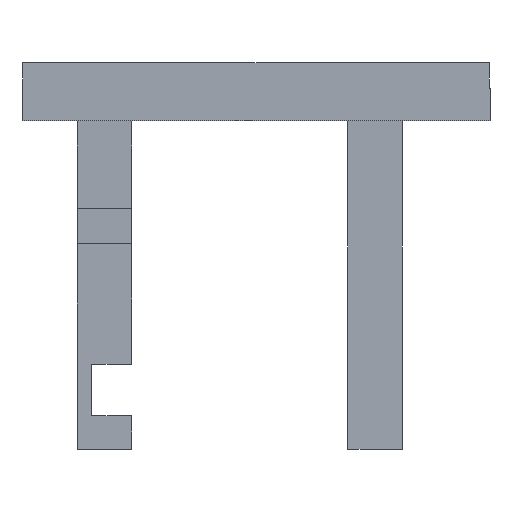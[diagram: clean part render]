
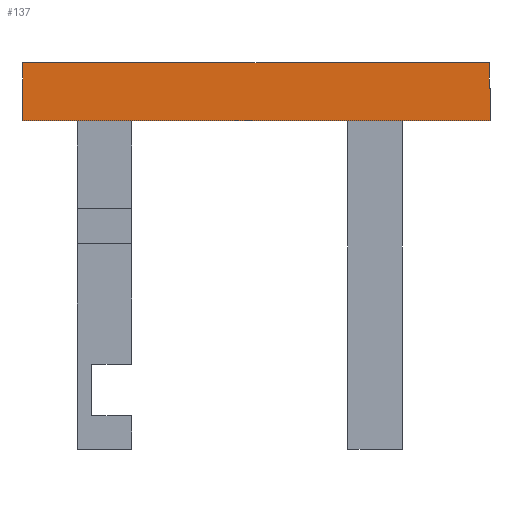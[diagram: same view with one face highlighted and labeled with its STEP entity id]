
A CAD part, front view. The second image highlights one B-rep face of the part: STEP entity #137.
In plain terms, the highlighted planar face has unit normal (0, -1, 0).
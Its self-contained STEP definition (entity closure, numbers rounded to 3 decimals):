
#21 = EDGE_CURVE('',#22,#24,#26,.T.);
#22 = VERTEX_POINT('',#23);
#23 = CARTESIAN_POINT('',(-42.1,-99.,138.6));
#24 = VERTEX_POINT('',#25);
#25 = CARTESIAN_POINT('',(-42.1,-99.,141.));
#26 = SURFACE_CURVE('',#27,(#31,#43),.PCURVE_S1.);
#27 = LINE('',#28,#29);
#28 = CARTESIAN_POINT('',(-42.1,-99.,138.6));
#29 = VECTOR('',#30,1.);
#30 = DIRECTION('',(0.,0.,1.));
#31 = PCURVE('',#32,#37);
#32 = PLANE('',#33);
#33 = AXIS2_PLACEMENT_3D('',#34,#35,#36);
#34 = CARTESIAN_POINT('',(-42.1,-99.,138.6));
#35 = DIRECTION('',(1.,0.,0.));
#36 = DIRECTION('',(0.,0.,1.));
#37 = DEFINITIONAL_REPRESENTATION('',(#38),#42);
#38 = LINE('',#39,#40);
#39 = CARTESIAN_POINT('',(0.,0.));
#40 = VECTOR('',#41,1.);
#41 = DIRECTION('',(1.,0.));
#42 = ( GEOMETRIC_REPRESENTATION_CONTEXT(2) 
PARAMETRIC_REPRESENTATION_CONTEXT() REPRESENTATION_CONTEXT('2D SPACE',''
  ) );
#43 = PCURVE('',#44,#49);
#44 = PLANE('',#45);
#45 = AXIS2_PLACEMENT_3D('',#46,#47,#48);
#46 = CARTESIAN_POINT('',(-24.8,-99.,140.748));
#47 = DIRECTION('',(-0.,-1.,-0.));
#48 = DIRECTION('',(0.,0.,-1.));
#49 = DEFINITIONAL_REPRESENTATION('',(#50),#54);
#50 = LINE('',#51,#52);
#51 = CARTESIAN_POINT('',(2.148,-17.3));
#52 = VECTOR('',#53,1.);
#53 = DIRECTION('',(-1.,0.));
#54 = ( GEOMETRIC_REPRESENTATION_CONTEXT(2) 
PARAMETRIC_REPRESENTATION_CONTEXT() REPRESENTATION_CONTEXT('2D SPACE',''
  ) );
#72 = PLANE('',#73);
#73 = AXIS2_PLACEMENT_3D('',#74,#75,#76);
#74 = CARTESIAN_POINT('',(-24.962,-87.404,138.6));
#75 = DIRECTION('',(-0.,-0.,-1.));
#76 = DIRECTION('',(-1.,0.,0.));
#126 = PLANE('',#127);
#127 = AXIS2_PLACEMENT_3D('',#128,#129,#130);
#128 = CARTESIAN_POINT('',(-42.1,-99.,141.));
#129 = DIRECTION('',(0.,0.,1.));
#130 = DIRECTION('',(1.,0.,0.));
#137 = ADVANCED_FACE('',(#138),#44,.T.);
#138 = FACE_BOUND('',#139,.T.);
#139 = EDGE_LOOP('',(#140,#170,#193,#221,#249,#277,#298,#299));
#140 = ORIENTED_EDGE('',*,*,#141,.T.);
#141 = EDGE_CURVE('',#142,#144,#146,.T.);
#142 = VERTEX_POINT('',#143);
#143 = CARTESIAN_POINT('',(-7.5,-99.,138.6));
#144 = VERTEX_POINT('',#145);
#145 = CARTESIAN_POINT('',(-7.5,-99.,141.));
#146 = SURFACE_CURVE('',#147,(#151,#158),.PCURVE_S1.);
#147 = LINE('',#148,#149);
#148 = CARTESIAN_POINT('',(-7.5,-99.,138.6));
#149 = VECTOR('',#150,1.);
#150 = DIRECTION('',(0.,0.,1.));
#151 = PCURVE('',#44,#152);
#152 = DEFINITIONAL_REPRESENTATION('',(#153),#157);
#153 = LINE('',#154,#155);
#154 = CARTESIAN_POINT('',(2.148,17.3));
#155 = VECTOR('',#156,1.);
#156 = DIRECTION('',(-1.,0.));
#157 = ( GEOMETRIC_REPRESENTATION_CONTEXT(2) 
PARAMETRIC_REPRESENTATION_CONTEXT() REPRESENTATION_CONTEXT('2D SPACE',''
  ) );
#158 = PCURVE('',#159,#164);
#159 = PLANE('',#160);
#160 = AXIS2_PLACEMENT_3D('',#161,#162,#163);
#161 = CARTESIAN_POINT('',(-7.5,-99.,138.6));
#162 = DIRECTION('',(1.,0.,0.));
#163 = DIRECTION('',(0.,0.,1.));
#164 = DEFINITIONAL_REPRESENTATION('',(#165),#169);
#165 = LINE('',#166,#167);
#166 = CARTESIAN_POINT('',(0.,0.));
#167 = VECTOR('',#168,1.);
#168 = DIRECTION('',(1.,0.));
#169 = ( GEOMETRIC_REPRESENTATION_CONTEXT(2) 
PARAMETRIC_REPRESENTATION_CONTEXT() REPRESENTATION_CONTEXT('2D SPACE',''
  ) );
#170 = ORIENTED_EDGE('',*,*,#171,.F.);
#171 = EDGE_CURVE('',#172,#144,#174,.T.);
#172 = VERTEX_POINT('',#173);
#173 = CARTESIAN_POINT('',(-7.55,-99.,141.));
#174 = SURFACE_CURVE('',#175,(#179,#186),.PCURVE_S1.);
#175 = LINE('',#176,#177);
#176 = CARTESIAN_POINT('',(-42.1,-99.,141.));
#177 = VECTOR('',#178,1.);
#178 = DIRECTION('',(1.,0.,0.));
#179 = PCURVE('',#44,#180);
#180 = DEFINITIONAL_REPRESENTATION('',(#181),#185);
#181 = LINE('',#182,#183);
#182 = CARTESIAN_POINT('',(-0.252,-17.3));
#183 = VECTOR('',#184,1.);
#184 = DIRECTION('',(0.,1.));
#185 = ( GEOMETRIC_REPRESENTATION_CONTEXT(2) 
PARAMETRIC_REPRESENTATION_CONTEXT() REPRESENTATION_CONTEXT('2D SPACE',''
  ) );
#186 = PCURVE('',#126,#187);
#187 = DEFINITIONAL_REPRESENTATION('',(#188),#192);
#188 = LINE('',#189,#190);
#189 = CARTESIAN_POINT('',(0.,0.));
#190 = VECTOR('',#191,1.);
#191 = DIRECTION('',(1.,0.));
#192 = ( GEOMETRIC_REPRESENTATION_CONTEXT(2) 
PARAMETRIC_REPRESENTATION_CONTEXT() REPRESENTATION_CONTEXT('2D SPACE',''
  ) );
#193 = ORIENTED_EDGE('',*,*,#194,.T.);
#194 = EDGE_CURVE('',#172,#195,#197,.T.);
#195 = VERTEX_POINT('',#196);
#196 = CARTESIAN_POINT('',(-7.55,-99.,142.9));
#197 = SURFACE_CURVE('',#198,(#202,#209),.PCURVE_S1.);
#198 = LINE('',#199,#200);
#199 = CARTESIAN_POINT('',(-7.55,-99.,140.8));
#200 = VECTOR('',#201,1.);
#201 = DIRECTION('',(0.,0.,1.));
#202 = PCURVE('',#44,#203);
#203 = DEFINITIONAL_REPRESENTATION('',(#204),#208);
#204 = LINE('',#205,#206);
#205 = CARTESIAN_POINT('',(-0.052,17.25));
#206 = VECTOR('',#207,1.);
#207 = DIRECTION('',(-1.,0.));
#208 = ( GEOMETRIC_REPRESENTATION_CONTEXT(2) 
PARAMETRIC_REPRESENTATION_CONTEXT() REPRESENTATION_CONTEXT('2D SPACE',''
  ) );
#209 = PCURVE('',#210,#215);
#210 = PLANE('',#211);
#211 = AXIS2_PLACEMENT_3D('',#212,#213,#214);
#212 = CARTESIAN_POINT('',(-7.55,-99.,140.8));
#213 = DIRECTION('',(1.,0.,0.));
#214 = DIRECTION('',(0.,0.,1.));
#215 = DEFINITIONAL_REPRESENTATION('',(#216),#220);
#216 = LINE('',#217,#218);
#217 = CARTESIAN_POINT('',(0.,0.));
#218 = VECTOR('',#219,1.);
#219 = DIRECTION('',(1.,0.));
#220 = ( GEOMETRIC_REPRESENTATION_CONTEXT(2) 
PARAMETRIC_REPRESENTATION_CONTEXT() REPRESENTATION_CONTEXT('2D SPACE',''
  ) );
#221 = ORIENTED_EDGE('',*,*,#222,.F.);
#222 = EDGE_CURVE('',#223,#195,#225,.T.);
#223 = VERTEX_POINT('',#224);
#224 = CARTESIAN_POINT('',(-42.05,-99.,142.9));
#225 = SURFACE_CURVE('',#226,(#230,#237),.PCURVE_S1.);
#226 = LINE('',#227,#228);
#227 = CARTESIAN_POINT('',(-42.05,-99.,142.9));
#228 = VECTOR('',#229,1.);
#229 = DIRECTION('',(1.,0.,0.));
#230 = PCURVE('',#44,#231);
#231 = DEFINITIONAL_REPRESENTATION('',(#232),#236);
#232 = LINE('',#233,#234);
#233 = CARTESIAN_POINT('',(-2.152,-17.25));
#234 = VECTOR('',#235,1.);
#235 = DIRECTION('',(0.,1.));
#236 = ( GEOMETRIC_REPRESENTATION_CONTEXT(2) 
PARAMETRIC_REPRESENTATION_CONTEXT() REPRESENTATION_CONTEXT('2D SPACE',''
  ) );
#237 = PCURVE('',#238,#243);
#238 = PLANE('',#239);
#239 = AXIS2_PLACEMENT_3D('',#240,#241,#242);
#240 = CARTESIAN_POINT('',(-42.05,-99.,142.9));
#241 = DIRECTION('',(0.,0.,1.));
#242 = DIRECTION('',(1.,0.,0.));
#243 = DEFINITIONAL_REPRESENTATION('',(#244),#248);
#244 = LINE('',#245,#246);
#245 = CARTESIAN_POINT('',(0.,0.));
#246 = VECTOR('',#247,1.);
#247 = DIRECTION('',(1.,0.));
#248 = ( GEOMETRIC_REPRESENTATION_CONTEXT(2) 
PARAMETRIC_REPRESENTATION_CONTEXT() REPRESENTATION_CONTEXT('2D SPACE',''
  ) );
#249 = ORIENTED_EDGE('',*,*,#250,.F.);
#250 = EDGE_CURVE('',#251,#223,#253,.T.);
#251 = VERTEX_POINT('',#252);
#252 = CARTESIAN_POINT('',(-42.05,-99.,141.));
#253 = SURFACE_CURVE('',#254,(#258,#265),.PCURVE_S1.);
#254 = LINE('',#255,#256);
#255 = CARTESIAN_POINT('',(-42.05,-99.,140.8));
#256 = VECTOR('',#257,1.);
#257 = DIRECTION('',(0.,0.,1.));
#258 = PCURVE('',#44,#259);
#259 = DEFINITIONAL_REPRESENTATION('',(#260),#264);
#260 = LINE('',#261,#262);
#261 = CARTESIAN_POINT('',(-0.052,-17.25));
#262 = VECTOR('',#263,1.);
#263 = DIRECTION('',(-1.,0.));
#264 = ( GEOMETRIC_REPRESENTATION_CONTEXT(2) 
PARAMETRIC_REPRESENTATION_CONTEXT() REPRESENTATION_CONTEXT('2D SPACE',''
  ) );
#265 = PCURVE('',#266,#271);
#266 = PLANE('',#267);
#267 = AXIS2_PLACEMENT_3D('',#268,#269,#270);
#268 = CARTESIAN_POINT('',(-42.05,-99.,140.8));
#269 = DIRECTION('',(1.,0.,0.));
#270 = DIRECTION('',(0.,0.,1.));
#271 = DEFINITIONAL_REPRESENTATION('',(#272),#276);
#272 = LINE('',#273,#274);
#273 = CARTESIAN_POINT('',(0.,0.));
#274 = VECTOR('',#275,1.);
#275 = DIRECTION('',(1.,0.));
#276 = ( GEOMETRIC_REPRESENTATION_CONTEXT(2) 
PARAMETRIC_REPRESENTATION_CONTEXT() REPRESENTATION_CONTEXT('2D SPACE',''
  ) );
#277 = ORIENTED_EDGE('',*,*,#278,.F.);
#278 = EDGE_CURVE('',#24,#251,#279,.T.);
#279 = SURFACE_CURVE('',#280,(#284,#291),.PCURVE_S1.);
#280 = LINE('',#281,#282);
#281 = CARTESIAN_POINT('',(-42.1,-99.,141.));
#282 = VECTOR('',#283,1.);
#283 = DIRECTION('',(1.,0.,0.));
#284 = PCURVE('',#44,#285);
#285 = DEFINITIONAL_REPRESENTATION('',(#286),#290);
#286 = LINE('',#287,#288);
#287 = CARTESIAN_POINT('',(-0.252,-17.3));
#288 = VECTOR('',#289,1.);
#289 = DIRECTION('',(0.,1.));
#290 = ( GEOMETRIC_REPRESENTATION_CONTEXT(2) 
PARAMETRIC_REPRESENTATION_CONTEXT() REPRESENTATION_CONTEXT('2D SPACE',''
  ) );
#291 = PCURVE('',#126,#292);
#292 = DEFINITIONAL_REPRESENTATION('',(#293),#297);
#293 = LINE('',#294,#295);
#294 = CARTESIAN_POINT('',(0.,0.));
#295 = VECTOR('',#296,1.);
#296 = DIRECTION('',(1.,0.));
#297 = ( GEOMETRIC_REPRESENTATION_CONTEXT(2) 
PARAMETRIC_REPRESENTATION_CONTEXT() REPRESENTATION_CONTEXT('2D SPACE',''
  ) );
#298 = ORIENTED_EDGE('',*,*,#21,.F.);
#299 = ORIENTED_EDGE('',*,*,#300,.T.);
#300 = EDGE_CURVE('',#22,#142,#301,.T.);
#301 = SURFACE_CURVE('',#302,(#306,#313),.PCURVE_S1.);
#302 = LINE('',#303,#304);
#303 = CARTESIAN_POINT('',(-42.1,-99.,138.6));
#304 = VECTOR('',#305,1.);
#305 = DIRECTION('',(1.,0.,0.));
#306 = PCURVE('',#44,#307);
#307 = DEFINITIONAL_REPRESENTATION('',(#308),#312);
#308 = LINE('',#309,#310);
#309 = CARTESIAN_POINT('',(2.148,-17.3));
#310 = VECTOR('',#311,1.);
#311 = DIRECTION('',(0.,1.));
#312 = ( GEOMETRIC_REPRESENTATION_CONTEXT(2) 
PARAMETRIC_REPRESENTATION_CONTEXT() REPRESENTATION_CONTEXT('2D SPACE',''
  ) );
#313 = PCURVE('',#72,#314);
#314 = DEFINITIONAL_REPRESENTATION('',(#315),#319);
#315 = LINE('',#316,#317);
#316 = CARTESIAN_POINT('',(17.138,-11.596));
#317 = VECTOR('',#318,1.);
#318 = DIRECTION('',(-1.,0.));
#319 = ( GEOMETRIC_REPRESENTATION_CONTEXT(2) 
PARAMETRIC_REPRESENTATION_CONTEXT() REPRESENTATION_CONTEXT('2D SPACE',''
  ) );
